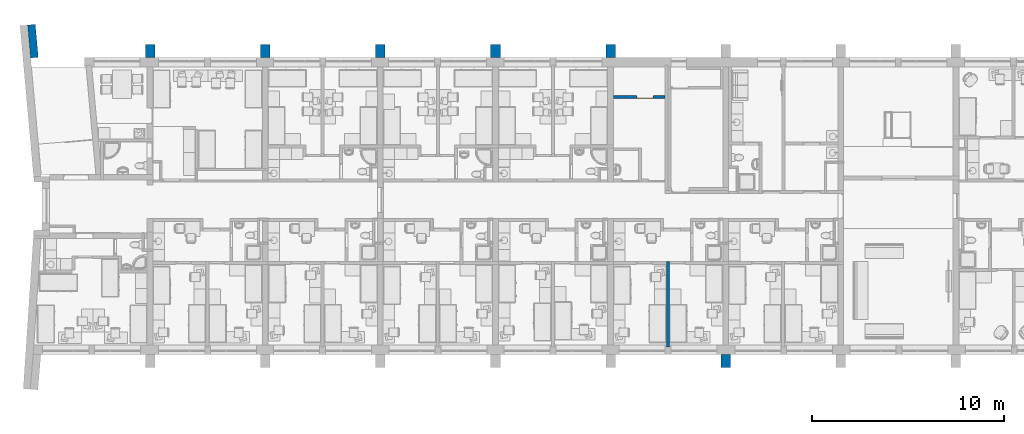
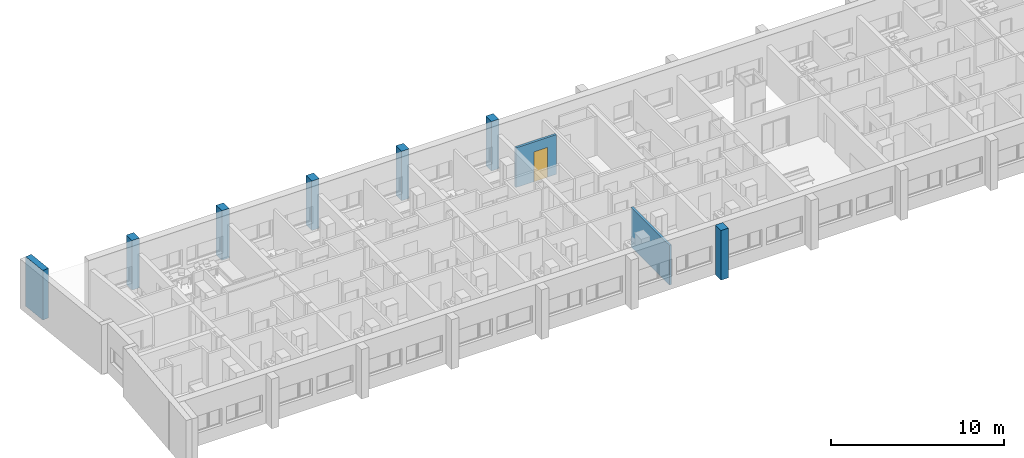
# One storey, part 10 of 152: 9 walls, 1 door, 1 opening.
"""IFC2X3 building model written with IfcOpenShell, lengths in millimetres."""

import ifcopenshell
import ifcopenshell.guid

model = None  # the IFC model being written
_history = None  # IfcOwnerHistory: only IFC2X3 demands one
_inside = {}  # id of a spatial element -> (the spatial element, [elements in it])
_under = {}  # id of a project, library or spatial element -> (it, [spatial elements below it])
_declared = {}  # id of a project -> (the project, [libraries it declares])
_typed = {}  # id of a type object -> (the type object, [elements of that type])
_made_of = {}  # id of a material, layer set ... -> (it, [elements and type objects made of it])


def new_model(schema):
    """Start an empty IFC model of exactly this schema.

    Asked for "IFC4X3", IfcOpenShell would pick the latest addendum, in which some entities
    have other attributes; the version numbers below select the first issue.
    IFC2X3 requires an IfcOwnerHistory on every rooted entity: one is made here for all.
    """
    global model, _history
    if schema == "IFC4X3":
        model = ifcopenshell.file(schema_version=(4, 3, 0, 0))
    else:
        model = ifcopenshell.file(schema=schema)
    _inside.clear()
    _under.clear()
    _declared.clear()
    _typed.clear()
    _made_of.clear()
    _history = None
    if model.schema == "IFC2X3":
        org = make("IfcOrganization", Name="unknown")
        user = make(
            "IfcPersonAndOrganization",
            ThePerson=make("IfcPerson", FamilyName="unknown"),
            TheOrganization=org,
        )
        app = make(
            "IfcApplication",
            ApplicationDeveloper=org,
            Version="unknown",
            ApplicationFullName="unknown",
            ApplicationIdentifier="unknown",
        )
        _history = make(
            "IfcOwnerHistory",
            OwningUser=user,
            OwningApplication=app,
            ChangeAction="ADDED",
            CreationDate=0,
        )
    return model


def make(cls, **values):
    """One entity of the class cls with the attributes given. An attribute that is None is left unset."""
    return model.create_entity(
        cls, **{name: value for name, value in values.items() if value is not None}
    )


def entity(cls, *values):
    """Any entity or typed value of the class cls, its attributes in the order of the schema. None: left unset."""
    e = model.create_entity(cls)
    for i, value in enumerate(values):
        if value is not None:
            e[i] = value
    return e


def rooted(cls, **values):
    """An entity with a GlobalId (a new one), such as an element, a storey or a relation."""
    return make(cls, GlobalId=ifcopenshell.guid.new(), OwnerHistory=_history, **values)


def si_unit(unit_type, name, prefix=None):
    """IfcSIUnit, for example si_unit("LENGTHUNIT", "METRE", prefix="MILLI")."""
    return make("IfcSIUnit", UnitType=unit_type, Prefix=prefix, Name=name)


def converted_unit(unit_type, name, factor, base, dimensions=None, offset=None):
    """IfcConversionBasedUnit, such as the inch: factor (a typed value) times the base unit."""
    return make(
        "IfcConversionBasedUnit"
        if offset is None
        else "IfcConversionBasedUnitWithOffset",
        ConversionOffset=offset,
        Dimensions=None
        if dimensions is None
        else entity("IfcDimensionalExponents", *dimensions),
        UnitType=unit_type,
        Name=name,
        ConversionFactor=make(
            "IfcMeasureWithUnit", ValueComponent=factor, UnitComponent=base
        ),
    )


def money_unit(currency):
    """IfcMonetaryUnit."""
    return make("IfcMonetaryUnit", Currency=currency)


def assignment(units):
    """IfcUnitAssignment: the units of a project."""
    return None if units is None else make("IfcUnitAssignment", Units=units)


def point(xyz):
    """IfcCartesianPoint."""
    return None if xyz is None else make("IfcCartesianPoint", Coordinates=xyz)


def direction(xyz):
    """IfcDirection."""
    return None if xyz is None else make("IfcDirection", DirectionRatios=xyz)


def frame(location, z_axis=None, x_axis=None):
    """IfcAxis2Placement3D, a coordinate frame: its origin and axes. An axis left out is left unset."""
    return make(
        "IfcAxis2Placement3D",
        Location=point(location),
        Axis=direction(z_axis),
        RefDirection=direction(x_axis),
    )


def origin_with_axes():
    """The frame at (0, 0, 0) with the z axis (0, 0, 1) and the x axis (1, 0, 0) written out."""
    return frame((0.0, 0.0, 0.0), z_axis=(0.0, 0.0, 1.0), x_axis=(1.0, 0.0, 0.0))


def place(relative_to, where):
    """IfcLocalPlacement: puts the frame where relative to a parent placement (None: the world)."""
    return make(
        "IfcLocalPlacement", PlacementRelTo=relative_to, RelativePlacement=where
    )


def context(
    kind, dimensions, precision=None, world=None, true_north=None, identifier=None
):
    """IfcGeometricRepresentationContext, for example the 3D "Model" context."""
    return make(
        "IfcGeometricRepresentationContext",
        ContextIdentifier=identifier,
        ContextType=kind,
        CoordinateSpaceDimension=dimensions,
        Precision=precision,
        WorldCoordinateSystem=world,
        TrueNorth=true_north,
    )


def subcontext(parent, identifier, kind, view, scale=None):
    """IfcGeometricRepresentationSubContext, for example "Body" below "Model"."""
    return make(
        "IfcGeometricRepresentationSubContext",
        ContextIdentifier=identifier,
        ContextType=kind,
        ParentContext=parent,
        TargetScale=scale,
        TargetView=view,
    )


def project(units=None, contexts=None):
    """IfcProject with its units and contexts."""
    return rooted(
        "IfcProject",
        Name="project",
        RepresentationContexts=contexts,
        UnitsInContext=assignment(units),
    )


def spatial(cls, under=None, at=None, **own):
    """A site, building, storey or space (cls), placed at a placement, below another one or the project."""
    s = rooted(cls, ObjectPlacement=at, **own)
    if under is not None:
        _under.setdefault(under.id(), (under, []))[1].append(s)
    return s


def polyline(points):
    """IfcPolyline through the points."""
    return make("IfcPolyline", Points=[point(p) for p in points])


def outline(outer, holes=None, kind="AREA"):
    """IfcArbitraryClosedProfileDef: a profile drawn as a closed curve; with holes, ...WithVoids."""
    if holes is None:
        return make("IfcArbitraryClosedProfileDef", ProfileType=kind, OuterCurve=outer)
    return make(
        "IfcArbitraryProfileDefWithVoids",
        ProfileType=kind,
        OuterCurve=outer,
        InnerCurves=holes,
    )


def extrude(swept, where, along, depth):
    """IfcExtrudedAreaSolid: the profile swept, set in the frame where, extruded along a direction by depth."""
    return make(
        "IfcExtrudedAreaSolid",
        SweptArea=swept,
        Position=where,
        ExtrudedDirection=direction(along),
        Depth=depth,
    )


def faces_of(points, faces, orient=None, outer=None):
    """IfcFace entities. A face is a list of loops; a loop is a list of indices into points, from 0.

    orient and outer hold one flag for each loop. By default every Orientation is true, the
    first loop of a face is its IfcFaceOuterBound and the others are IfcFaceBound.
    """
    made = []
    for i, loops in enumerate(faces):
        bounds = []
        for j, loop in enumerate(loops):
            is_outer = j == 0 if outer is None else outer[i][j]
            bounds.append(
                make(
                    "IfcFaceOuterBound" if is_outer else "IfcFaceBound",
                    Bound=make("IfcPolyLoop", Polygon=[points[k] for k in loop]),
                    Orientation=True if orient is None else orient[i][j],
                )
            )
        made.append(make("IfcFace", Bounds=bounds))
    return made


def faceted_brep(points, faces, orient=None, outer=None, voids=None):
    """IfcFacetedBrep: a solid bounded by flat faces; with voids (closed shells), ...WithVoids."""
    shared = [point(p) for p in points]
    hull = make("IfcClosedShell", CfsFaces=faces_of(shared, faces, orient, outer))
    if voids is None:
        return make("IfcFacetedBrep", Outer=hull)
    return make(
        "IfcFacetedBrepWithVoids",
        Outer=hull,
        Voids=[
            make(cls, CfsFaces=faces_of(shared, fs, o, b)) for cls, fs, o, b in voids
        ],
    )


def shape(context_of_items, identifier, shape_type, items):
    """IfcShapeRepresentation: the items that make up one representation, for example the "Body"."""
    return make(
        "IfcShapeRepresentation",
        ContextOfItems=context_of_items,
        RepresentationIdentifier=identifier,
        RepresentationType=shape_type,
        Items=items,
    )


def source(mapping_origin, context_of_items, identifier, shape_type, items):
    """IfcRepresentationMap: a shape defined once, which mapped items show again and again."""
    return make(
        "IfcRepresentationMap",
        MappingOrigin=mapping_origin,
        MappedRepresentation=shape(context_of_items, identifier, shape_type, items),
    )


def transform(
    local_origin,
    x_axis=None,
    y_axis=None,
    z_axis=None,
    scale=None,
    scale2=None,
    scale3=None,
    uniform=True,
):
    """IfcCartesianTransformationOperator3D, or its non-uniform kind. x_axis, y_axis, z_axis: its Axis1, 2, 3."""
    if uniform:
        return make(
            "IfcCartesianTransformationOperator3D",
            Axis1=direction(x_axis),
            Axis2=direction(y_axis),
            LocalOrigin=point(local_origin),
            Scale=scale,
            Axis3=direction(z_axis),
        )
    return make(
        "IfcCartesianTransformationOperator3DnonUniform",
        Axis1=direction(x_axis),
        Axis2=direction(y_axis),
        LocalOrigin=point(local_origin),
        Scale=scale,
        Axis3=direction(z_axis),
        Scale2=scale2,
        Scale3=scale3,
    )


def mapped(mapping_source, mapping_target):
    """IfcMappedItem: shows the shape of a source again, moved by a transform."""
    return make(
        "IfcMappedItem", MappingSource=mapping_source, MappingTarget=mapping_target
    )


def material(Name=None, Category=None):
    """IfcMaterial."""
    return make("IfcMaterial", Name=Name, Category=Category)


def material_list(materials):
    """IfcMaterialList."""
    return make("IfcMaterialList", Materials=materials)


def layer(
    of_material, thickness, ventilated=None, Name=None, Category=None, Priority=None
):
    """IfcMaterialLayer: one layer of a wall or slab, of a material (None: an air gap)."""
    return make(
        "IfcMaterialLayer",
        Material=of_material,
        LayerThickness=thickness,
        IsVentilated=ventilated,
        Name=Name,
        Category=Category,
        Priority=Priority,
    )


def layer_set(layers, Name=None):
    """IfcMaterialLayerSet."""
    return make("IfcMaterialLayerSet", MaterialLayers=layers, LayerSetName=Name)


def layer_usage(for_layer_set, set_direction, sense, offset, extent=None):
    """IfcMaterialLayerSetUsage: how a layer set lies in its element."""
    return make(
        "IfcMaterialLayerSetUsage",
        ForLayerSet=for_layer_set,
        LayerSetDirection=set_direction,
        DirectionSense=sense,
        OffsetFromReferenceLine=offset,
        ReferenceExtent=extent,
    )


def made_of(thing, what):
    """Note that an element or type object is made of a material, layer set ...; save() writes the relation."""
    if what is not None:
        _made_of.setdefault(what.id(), (what, []))[1].append(thing)
    return thing


def type_object(cls, material=None, **own):
    """A type object (cls), such as IfcWallType, which elements share."""
    return made_of(rooted(cls, **own), material)


def element(
    cls,
    number,
    at=None,
    inside=None,
    cuts=None,
    type_object=None,
    material=None,
    context=None,
    identifier="Body",
    shape_type=None,
    held_by="IfcProductDefinitionShape",
    body=None,
    shapes=None,
    **own,
):
    """One element of the class cls, such as IfcWall. Its Tag is "e" and its number.

    at: its placement. inside: the storey or other place that contains it. cuts: it is an
    opening in that element (IfcRelVoidsElement). A single representation is given by context,
    identifier, shape_type and body (its items); several are given by shapes. held_by: the class
    of the entity that holds the representations. save() writes the other relations.
    """
    e = rooted(cls, Tag="e%d" % number, ObjectPlacement=at, **own)
    if body is not None:
        shapes = [shape(context, identifier, shape_type, body)]
    if shapes is not None:
        e.Representation = make(held_by, Representations=shapes)
    if inside is not None:
        _inside.setdefault(inside.id(), (inside, []))[1].append(e)
    if cuts is not None:
        rooted(
            "IfcRelVoidsElement", RelatingBuildingElement=cuts, RelatedOpeningElement=e
        )
    if type_object is not None:
        _typed.setdefault(type_object.id(), (type_object, []))[1].append(e)
    return made_of(e, material)


def fill(opening, filler):
    """IfcRelFillsElement: the door or window that sits in an opening."""
    return rooted(
        "IfcRelFillsElement",
        RelatingOpeningElement=opening,
        RelatedBuildingElement=filler,
    )


def aggregate(whole, parts):
    """IfcRelAggregates: a whole, such as a stair, and the parts it consists of."""
    return rooted("IfcRelAggregates", RelatingObject=whole, RelatedObjects=parts)


def save(model, path):
    """Write the relations noted so far, then the file.

    IfcRelAggregates (storeys below a building ...), IfcRelContainedInSpatialStructure (elements
    in a storey), IfcRelDefinesByType, IfcRelAssociatesMaterial and IfcRelDeclares: one each for
    every whole, place, type object, material and project.
    """
    for whole, parts in _under.values():
        aggregate(whole, parts)
    for where, things in _inside.values():
        rooted(
            "IfcRelContainedInSpatialStructure",
            RelatedElements=things,
            RelatingStructure=where,
        )
    for kind, things in _typed.values():
        rooted("IfcRelDefinesByType", RelatedObjects=things, RelatingType=kind)
    for what, things in _made_of.values():
        rooted("IfcRelAssociatesMaterial", RelatedObjects=things, RelatingMaterial=what)
    for by, libraries in _declared.values():
        rooted("IfcRelDeclares", RelatingContext=by, RelatedDefinitions=libraries)
    model.write(path)


model = new_model("IFC2X3")

# Units and contexts
model_context = context("Model", 3, precision=1e-05, world=origin_with_axes(), true_north=direction((0.0, 1.0)))
body_context = subcontext(model_context, "Body", "Model", "MODEL_VIEW")
ifc_project = project(units=[si_unit("LENGTHUNIT", "METRE", prefix="MILLI"), si_unit("AREAUNIT", "SQUARE_METRE"), si_unit("VOLUMEUNIT", "CUBIC_METRE"), converted_unit("PLANEANGLEUNIT", "DEGREE", entity("IfcPlaneAngleMeasure", 0.0174532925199), si_unit("PLANEANGLEUNIT", "RADIAN"), dimensions=[0, 0, 0, 0, 0, 0, 0]), si_unit("SOLIDANGLEUNIT", "STERADIAN"), money_unit("USD"), converted_unit("TIMEUNIT", "Year", entity("IfcTimeMeasure", 31556926.0), si_unit("TIMEUNIT", "SECOND"), dimensions=[0, 0, 0, 0, 0, 0, 0]), si_unit("MASSUNIT", "GRAM"), si_unit("THERMODYNAMICTEMPERATUREUNIT", "DEGREE_CELSIUS"), si_unit("LUMINOUSINTENSITYUNIT", "LUMEN")], contexts=[model_context])

# Site, building, storey
site_placement = place(None, origin_with_axes())
site = spatial("IfcSite", under=ifc_project, at=site_placement, Name="Site", CompositionType="ELEMENT")
building_placement = place(site_placement, origin_with_axes())
building = spatial("IfcBuilding", under=site, at=building_placement, Name="Building", CompositionType="ELEMENT")
storey_placement = place(building_placement, frame((0.0, 0.0, 9500.0), z_axis=(0.0, 0.0, 1.0), x_axis=(1.0, 0.0, 0.0)))
storey = spatial("IfcBuildingStorey", under=building, at=storey_placement, Name="5KORRUS", CompositionType="ELEMENT", Elevation=9500.0)

# Walls
ifc_material_1 = material(Name="Olemasolevad seinad tellis, uus viimistlus")
ifc_layer_1 = layer(ifc_material_1, 400.0, ventilated="UNKNOWN")
ifc_layer_set_1 = layer_set([ifc_layer_1], Name="Olemasolevad seinad tellis, uus viimistlus 400")
ifc_layer_usage_1 = layer_usage(ifc_layer_set_1, "AXIS2", "POSITIVE", 0.0)
wall_type_1 = type_object("IfcWallType", Name="Olemasolevad seinad tellis, uus viimistlus 400", PredefinedType="NOTDEFINED")
wall_1_placement = place(storey_placement, frame((-53969.3388124, -4639.6041088, 0.0), z_axis=(0.0, 0.0, 1.0), x_axis=(-0.0895981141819, 0.995978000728, 0.0)))
element("IfcWallStandardCase", 1, at=wall_1_placement, inside=storey, type_object=wall_type_1, material=ifc_layer_usage_1, Name="VS1", ObjectType="VS1", context=body_context, shape_type="SweptSolid", body=[
    extrude(outline(polyline([(0.0, 0.0), (1721.86022219, 0.0), (1721.86022219, 400.0), (0.0, 400.0), (0.0, 0.0)])), origin_with_axes(), (0.0, 0.0, 1.0), 3500.0),
])
ifc_layer_2 = layer(ifc_material_1, 500.0, ventilated="UNKNOWN")
ifc_layer_set_2 = layer_set([ifc_layer_2], Name="Olemasolevad seinad tellis, uus viimistlus 500")
ifc_layer_usage_2 = layer_usage(ifc_layer_set_2, "AXIS2", "POSITIVE", -100.0)
wall_type_2 = type_object("IfcWallType", Name="Olemasolevad seinad tellis, uus viimistlus 500", PredefinedType="NOTDEFINED")
wall_2_placement = place(storey_placement, frame((-17990.2967033, -20796.6419407, 0.0), z_axis=(0.0, 0.0, 1.0), x_axis=(0.0, 1.0, 0.0)))
element("IfcWallStandardCase", 2, at=wall_2_placement, inside=storey, type_object=wall_type_2, material=ifc_layer_usage_2, Name="VS1", ObjectType="VS1", context=body_context, shape_type="SweptSolid", body=[
    extrude(outline(polyline([(0.0, -100.0), (657.402041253, -100.0), (657.402041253, 400.0), (0.0, 400.0), (0.0, -100.0)])), origin_with_axes(), (0.0, 0.0, 1.0), 3500.0),
])
ifc_layer_usage_3 = layer_usage(ifc_layer_set_2, "AXIS2", "POSITIVE", -100.0)
wall_3_placement = place(storey_placement, frame((-47990.2967033, -4639.6041088, 0.0), z_axis=(0.0, 0.0, 1.0), x_axis=(0.0, 1.0, 0.0)))
element("IfcWallStandardCase", 3, at=wall_3_placement, inside=storey, type_object=wall_type_2, material=ifc_layer_usage_3, Name="VS1", ObjectType="VS1", context=body_context, shape_type="SweptSolid", body=[
    extrude(outline(polyline([(0.0, -100.0), (657.402041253, -100.0), (657.402041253, 400.0), (0.0, 400.0), (0.0, -100.0)])), origin_with_axes(), (0.0, 0.0, 1.0), 3500.0),
])
ifc_layer_usage_4 = layer_usage(ifc_layer_set_2, "AXIS2", "POSITIVE", -100.0)
wall_4_placement = place(storey_placement, frame((-41990.2967033, -4639.6041088, 0.0), z_axis=(0.0, 0.0, 1.0), x_axis=(0.0, 1.0, 0.0)))
element("IfcWallStandardCase", 4, at=wall_4_placement, inside=storey, type_object=wall_type_2, material=ifc_layer_usage_4, Name="VS1", ObjectType="VS1", context=body_context, shape_type="SweptSolid", body=[
    extrude(outline(polyline([(0.0, -100.0), (657.402041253, -100.0), (657.402041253, 400.0), (0.0, 400.0), (0.0, -100.0)])), origin_with_axes(), (0.0, 0.0, 1.0), 3500.0),
])
ifc_layer_usage_5 = layer_usage(ifc_layer_set_2, "AXIS2", "POSITIVE", -100.0)
wall_5_placement = place(storey_placement, frame((-35990.2967033, -4639.6041088, 0.0), z_axis=(0.0, 0.0, 1.0), x_axis=(0.0, 1.0, 0.0)))
element("IfcWallStandardCase", 5, at=wall_5_placement, inside=storey, type_object=wall_type_2, material=ifc_layer_usage_5, Name="VS1", ObjectType="VS1", context=body_context, shape_type="SweptSolid", body=[
    extrude(outline(polyline([(0.0, -100.0), (657.402041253, -100.0), (657.402041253, 400.0), (0.0, 400.0), (0.0, -100.0)])), origin_with_axes(), (0.0, 0.0, 1.0), 3500.0),
])
ifc_layer_usage_6 = layer_usage(ifc_layer_set_2, "AXIS2", "POSITIVE", -100.0)
wall_6_placement = place(storey_placement, frame((-29990.2967033, -4639.6041088, 0.0), z_axis=(0.0, 0.0, 1.0), x_axis=(0.0, 1.0, 0.0)))
element("IfcWallStandardCase", 6, at=wall_6_placement, inside=storey, type_object=wall_type_2, material=ifc_layer_usage_6, Name="VS1", ObjectType="VS1", context=body_context, shape_type="SweptSolid", body=[
    extrude(outline(polyline([(0.0, -100.0), (657.402041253, -100.0), (657.402041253, 400.0), (0.0, 400.0), (0.0, -100.0)])), origin_with_axes(), (0.0, 0.0, 1.0), 3500.0),
])
ifc_layer_usage_7 = layer_usage(ifc_layer_set_2, "AXIS2", "POSITIVE", -100.0)
wall_7_placement = place(storey_placement, frame((-23990.2967033, -4639.6041088, 0.0), z_axis=(0.0, 0.0, 1.0), x_axis=(0.0, 1.0, 0.0)))
element("IfcWallStandardCase", 7, at=wall_7_placement, inside=storey, type_object=wall_type_2, material=ifc_layer_usage_7, Name="VS1", ObjectType="VS1", context=body_context, shape_type="SweptSolid", body=[
    extrude(outline(polyline([(0.0, -100.0), (657.402041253, -100.0), (657.402041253, 400.0), (0.0, 400.0), (0.0, -100.0)])), origin_with_axes(), (0.0, 0.0, 1.0), 3500.0),
])

# Wall, opening, door
ifc_material_2 = material(Name="UmbKipsplaat")
ifc_layer_3 = layer(ifc_material_2, 13.0, ventilated="UNKNOWN")
ifc_layer_4 = layer(ifc_material_2, 13.0, ventilated="UNKNOWN")
ifc_material_3 = material(Name="SOOJUSTUS MINERAALVILL")
ifc_layer_5 = layer(ifc_material_3, 98.0, ventilated="UNKNOWN")
ifc_layer_6 = layer(ifc_material_2, 13.0, ventilated="UNKNOWN")
ifc_layer_7 = layer(ifc_material_2, 13.0, ventilated="UNKNOWN")
ifc_layer_set_3 = layer_set([ifc_layer_3, ifc_layer_4, ifc_layer_5, ifc_layer_6, ifc_layer_7], Name="kipssein150")
ifc_layer_usage_8 = layer_usage(ifc_layer_set_3, "AXIS2", "POSITIVE", 0.0)
wall_type_3 = type_object("IfcWallType", Name="kipssein150 150", PredefinedType="NOTDEFINED")
wall_8_placement = place(storey_placement, frame((-23990.2967033, -6789.6041088, 0.0), z_axis=(0.0, 0.0, 1.0), x_axis=(1.0, 0.0, 0.0)))
wall_8 = element("IfcWallStandardCase", 8, at=wall_8_placement, inside=storey, type_object=wall_type_3, material=ifc_layer_usage_8, Name="SS1", ObjectType="SS1", context=body_context, shape_type="SweptSolid", body=[
    extrude(outline(polyline([(0.0, 0.0), (2696.4969239, 0.0), (2696.4969239, 150.0), (0.0, 150.0), (0.0, 0.0)])), origin_with_axes(), (0.0, 0.0, 1.0), 2800.0),
])
opening_placement = place(wall_8_placement, frame((1646.4969239, 0.0, 0.0), z_axis=(0.0, 0.0, 1.0), x_axis=(1.0, 0.0, 0.0)))
opening = element("IfcOpeningElement", 9, at=opening_placement, cuts=wall_8, Name="SU2-4", context=body_context, shape_type="SweptSolid", body=[
    extrude(outline(polyline([(-450.0, -2100.0), (450.0, -2100.0), (450.0, 0.0), (-450.0, 0.0), (-450.0, -2100.0)])), frame((0.0, 150.0, 0.0), z_axis=(0.0, 1.0, 0.0), x_axis=(1.0, 0.0, 0.0)), (0.0, 0.0, -1.0), 450.0),
])
ifc_material_4 = material(Name="Background")
ifc_material_list = material_list([ifc_material_4])
door_style = type_object("IfcDoorStyle", Name="Door 19", ConstructionType="NOTDEFINED", OperationType="SINGLE_SWING_LEFT", ParameterTakesPrecedence=False, Sizeable=False)
shared_shape = source(origin_with_axes(), body_context, "Body", "Brep", [
    faceted_brep([(410.0, -40.0, 0.0), (410.0, -115.0, 0.0), (410.0, -115.0, 2060.0), (410.0, -40.0, 2060.0), (422.0, -40.0, 0.0), (422.0, 0.0, 0.0), (450.0, 0.0, 0.0), (450.0, -115.0, 0.0), (450.0, -115.0, 2060.0), (422.0, -40.0, 2060.0), (450.0, 0.0, 2060.0), (422.0, 0.0, 2060.0)], [[[0, 1, 2, 3]], [[4, 5, 6, 7, 1, 0]], [[2, 1, 7, 8]], [[9, 3, 2, 8, 10, 11]], [[9, 4, 0, 3]], [[11, 5, 4, 9]], [[11, 10, 6, 5]], [[7, 6, 10, 8]]]),
    faceted_brep([(-422.0, -40.0, 2060.0), (-422.0, 0.0, 2060.0), (-450.0, 0.0, 2060.0), (-450.0, -115.0, 2060.0), (-410.0, -115.0, 2060.0), (-410.0, -40.0, 2060.0), (-422.0, -40.0, 0.0), (-422.0, 0.0, 0.0), (-450.0, 0.0, 0.0), (-450.0, -115.0, 0.0), (-410.0, -115.0, 0.0), (-410.0, -40.0, 0.0)], [[[0, 1, 2, 3, 4, 5]], [[0, 6, 7, 1]], [[7, 8, 2, 1]], [[3, 2, 8, 9]], [[4, 3, 9, 10]], [[5, 4, 10, 11]], [[5, 11, 6, 0]], [[6, 11, 10, 9, 8, 7]]]),
    faceted_brep([(422.0, 0.0, 2072.0), (-422.0, 0.0, 2072.0), (-422.0, 0.0, 2060.0), (-450.0, 0.0, 2060.0), (-450.0, 0.0, 2100.0), (450.0, 0.0, 2100.0), (450.0, 0.0, 2060.0), (422.0, 0.0, 2060.0), (422.0, -40.0, 2072.0), (-422.0, -40.0, 2072.0), (-422.0, -40.0, 2060.0), (-410.0, -40.0, 2060.0), (-410.0, -115.0, 2060.0), (-450.0, -115.0, 2060.0), (-450.0, -115.0, 2100.0), (450.0, -115.0, 2100.0), (450.0, -115.0, 2060.0), (422.0, -40.0, 2060.0), (410.0, -115.0, 2060.0), (410.0, -40.0, 2060.0)], [[[0, 1, 2, 3, 4, 5, 6, 7]], [[0, 8, 9, 1]], [[1, 9, 10, 2]], [[10, 11, 12, 13, 3, 2]], [[14, 4, 3, 13]], [[15, 5, 4, 14]], [[16, 6, 5, 15]], [[17, 7, 6, 16, 18, 19]], [[7, 17, 8, 0]], [[10, 9, 8, 17, 19, 11]], [[19, 18, 12, 11]], [[13, 12, 18, 16, 15, 14]]]),
    faceted_brep([(-422.0, 0.0, 0.0), (422.0, 0.0, 0.0), (422.0, -40.0, 0.0), (-422.0, -40.0, 0.0), (-422.0, 0.0, 2072.0), (422.0, 0.0, 2072.0), (422.0, -40.0, 2072.0), (-422.0, -40.0, 2072.0)], [[[0, 1, 2, 3]], [[0, 4, 5, 1]], [[1, 5, 6, 2]], [[3, 2, 6, 7]], [[4, 0, 3, 7]], [[5, 4, 7, 6]]]),
])
door_placement = place(opening_placement, frame((450.0, 0.0, 0.0), z_axis=(0.0, 0.0, 1.0), x_axis=(-1.0, 0.0, 0.0)))
door = element("IfcDoor", 10, at=door_placement, inside=storey, type_object=door_style, material=ifc_material_list, Name="SU2-4", ObjectType="Abiruumi uks", OverallHeight=2100.0, OverallWidth=900.0, context=body_context, shape_type="MappedRepresentation", body=[
    mapped(shared_shape, transform((450.0, 0.0, 0.0))),
])
fill(opening, door)

# Wall
ifc_layer_usage_9 = layer_usage(ifc_layer_set_3, "AXIS2", "POSITIVE", 0.0)
wall_9_placement = place(storey_placement, frame((-21070.2967033, -19739.2398994, 0.0), z_axis=(0.0, 0.0, 1.0), x_axis=(0.0, 1.0, 0.0)))
element("IfcWallStandardCase", 11, at=wall_9_placement, inside=storey, type_object=wall_type_3, material=ifc_layer_usage_9, Name="SS1", ObjectType="SS1", context=body_context, shape_type="SweptSolid", body=[
    extrude(outline(polyline([(0.0, 0.0), (4458.76827323, 0.0), (4458.76827323, 150.0), (0.0, 150.0), (0.0, 0.0)])), origin_with_axes(), (0.0, 0.0, 1.0), 2800.0),
])

save(model, "model.ifc")
